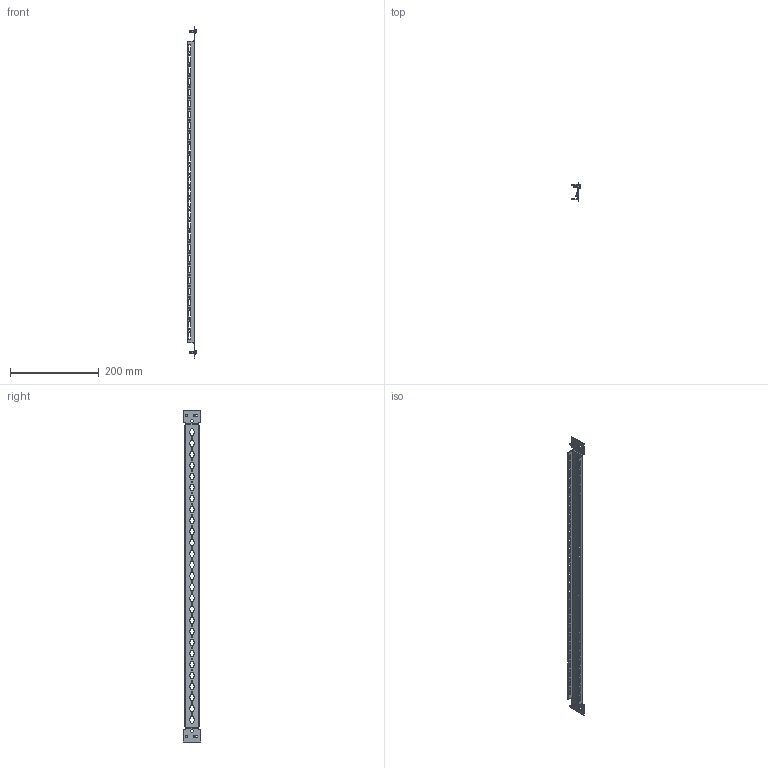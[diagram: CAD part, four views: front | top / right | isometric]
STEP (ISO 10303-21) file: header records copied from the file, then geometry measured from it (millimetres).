
FILE_DESCRIPTION(('Open CASCADE Model'),'2;1');
FILE_NAME('Open CASCADE Shape Model','2025-02-21T13:29:33',('Author'),( 'Open CASCADE'),'Open CASCADE STEP processor 7.8','Open CASCADE 7.8' ,'Unknown');
FILE_SCHEMA(('AUTOMOTIVE_DESIGN { 1 0 10303 214 1 1 1 1 }'));
Length unit declared in the file: millimetre
Products named in the file (3): Compound1; Solid1; Solid2
Assembly tree (3 placements, depth 2):
  Compound1
    Solid1
    Solid2  x2
Bounding box: 20.36 x 40 x 750.04 mm (x, y, z)
Volume: 55515 mm3; surface area: 83111.7 mm2
Topology: 3 solids, 3 shells, 950 faces, 2744 edges, 1802 vertices
Faces by surface type: plane 500, cylinder 386, cone 56, torus 4, sphere 2, bspline 2
Full cylindrical faces by diameter (mm): 4.2 x78, 5 x28, 6.5 x4, 9.5 x2
Entity records: 30836 total; most frequent: CARTESIAN_POINT 5773, ORIENTED_EDGE 5270, DIRECTION 5090, EDGE_CURVE 2635, VERTEX_POINT 1746, LINE 1704, VECTOR 1704, AXIS2_PLACEMENT_3D 1693
